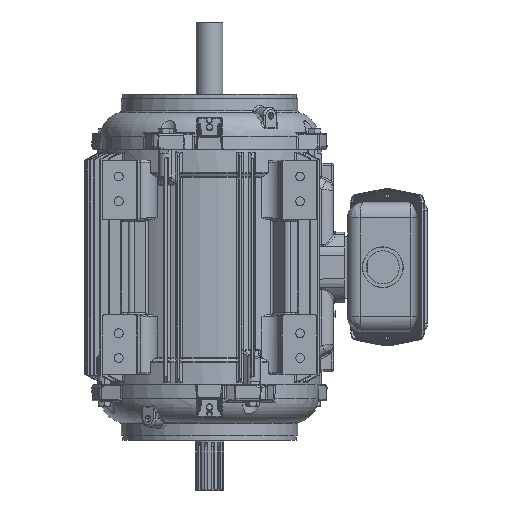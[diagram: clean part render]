
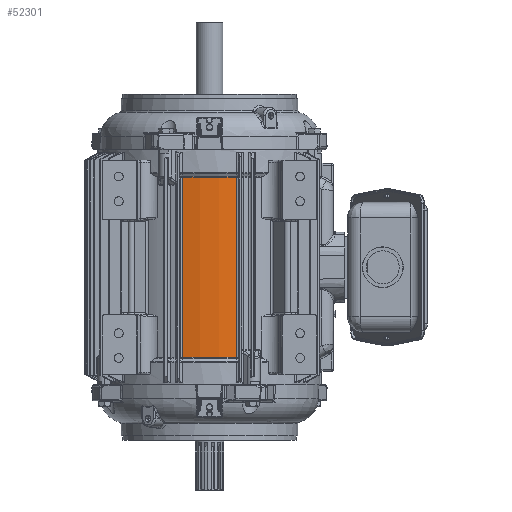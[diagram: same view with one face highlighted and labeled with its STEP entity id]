
A CAD part, front view. The second image highlights one B-rep face of the part: STEP entity #52301.
In plain terms, the highlighted cylindrical face has radius 167.005 mm (diameter 334.01 mm), a partial arc.
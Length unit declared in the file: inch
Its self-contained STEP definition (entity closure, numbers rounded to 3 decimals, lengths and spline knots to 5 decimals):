
#727 = DIRECTION ( 'NONE',  ( 0., 0., -1. ) ) ;
#5345 = CARTESIAN_POINT ( 'NONE',  ( -1.6355, -6.36834, 5.46961 ) ) ;
#14192 = CARTESIAN_POINT ( 'NONE',  ( 1.6355, -6.36834, -5.46961 ) ) ;
#21791 = CARTESIAN_POINT ( 'NONE',  ( 1.6355, -6.36834, 5.46961 ) ) ;
#22104 = AXIS2_PLACEMENT_3D ( 'NONE', #67310, #51141, #138423 ) ;
#23221 = LINE ( 'NONE', #74367, #175717 ) ;
#28232 = ORIENTED_EDGE ( 'NONE', *, *, #177548, .T. ) ;
#28849 = DIRECTION ( 'NONE',  ( 0., 0., 1. ) ) ;
#30129 = CARTESIAN_POINT ( 'NONE',  ( 1.6355, -6.36834, 6.49851 ) ) ;
#33744 = DIRECTION ( 'NONE',  ( 1., 0., 0. ) ) ;
#51141 = DIRECTION ( 'NONE',  ( 0., 0., 1. ) ) ;
#52286 = ORIENTED_EDGE ( 'NONE', *, *, #131335, .T. ) ;
#52301 = ADVANCED_FACE ( 'NONE', ( #91080 ), #144221, .T. ) ;
#53609 = VECTOR ( 'NONE', #28849, 39.37008 ) ;
#56028 = LINE ( 'NONE', #30129, #53609 ) ;
#64108 = DIRECTION ( 'NONE',  ( 0., 0., 1. ) ) ;
#67310 = CARTESIAN_POINT ( 'NONE',  ( 0., 0., -5.46961 ) ) ;
#74367 = CARTESIAN_POINT ( 'NONE',  ( -1.6355, -6.36834, 6.49851 ) ) ;
#78454 = ORIENTED_EDGE ( 'NONE', *, *, #175130, .F. ) ;
#84803 = ORIENTED_EDGE ( 'NONE', *, *, #145327, .T. ) ;
#88207 = VERTEX_POINT ( 'NONE', #21791 ) ;
#91080 = FACE_OUTER_BOUND ( 'NONE', #139905, .T. ) ;
#110919 = CARTESIAN_POINT ( 'NONE',  ( 0., 0., 5.46961 ) ) ;
#117571 = CARTESIAN_POINT ( 'NONE',  ( -1.6355, -6.36834, -5.46961 ) ) ;
#125768 = AXIS2_PLACEMENT_3D ( 'NONE', #110919, #127031, #141796 ) ;
#127031 = DIRECTION ( 'NONE',  ( 0., 0., 1. ) ) ;
#131335 = EDGE_CURVE ( 'NONE', #152722, #88207, #56028, .T. ) ;
#138423 = DIRECTION ( 'NONE',  ( 1., 0., 0. ) ) ;
#139905 = EDGE_LOOP ( 'NONE', ( #78454, #28232, #84803, #52286 ) ) ;
#140231 = VERTEX_POINT ( 'NONE', #5345 ) ;
#141796 = DIRECTION ( 'NONE',  ( 1., 0., 0. ) ) ;
#144221 = CYLINDRICAL_SURFACE ( 'NONE', #191684, 6.575 ) ;
#145327 = EDGE_CURVE ( 'NONE', #150072, #152722, #190197, .T. ) ;
#150072 = VERTEX_POINT ( 'NONE', #117571 ) ;
#151845 = CARTESIAN_POINT ( 'NONE',  ( 0., 0., 6.49851 ) ) ;
#152722 = VERTEX_POINT ( 'NONE', #14192 ) ;
#175130 = EDGE_CURVE ( 'NONE', #140231, #88207, #175846, .T. ) ;
#175717 = VECTOR ( 'NONE', #727, 39.37008 ) ;
#175846 = CIRCLE ( 'NONE', #125768, 6.575 ) ;
#177548 = EDGE_CURVE ( 'NONE', #140231, #150072, #23221, .T. ) ;
#190197 = CIRCLE ( 'NONE', #22104, 6.575 ) ;
#191684 = AXIS2_PLACEMENT_3D ( 'NONE', #151845, #64108, #33744 ) ;
